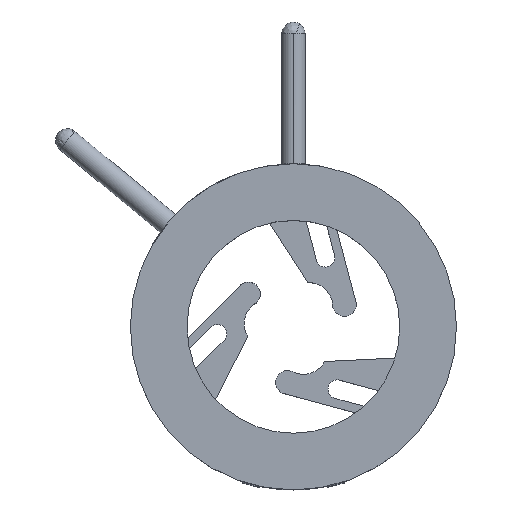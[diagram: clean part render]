
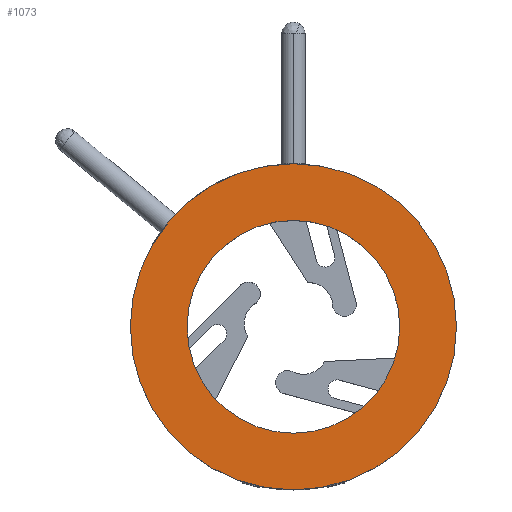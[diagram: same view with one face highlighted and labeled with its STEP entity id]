
A CAD part, top view. The second image highlights one B-rep face of the part: STEP entity #1073.
In plain terms, the highlighted planar face has unit normal (0, 0, 1).
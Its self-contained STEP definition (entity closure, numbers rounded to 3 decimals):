
#108 = VERTEX_POINT ( 'NONE', #3427 ) ;
#110 = EDGE_CURVE ( 'NONE', #151, #108, #3409, .T. ) ;
#151 = VERTEX_POINT ( 'NONE', #3500 ) ;
#1049 = EDGE_LOOP ( 'NONE', ( #1050, #1051 ) ) ;
#1050 = ORIENTED_EDGE ( 'NONE', *, *, #1072, .F. ) ;
#1051 = ORIENTED_EDGE ( 'NONE', *, *, #2105, .F. ) ;
#1052 = EDGE_LOOP ( 'NONE', ( #1053, #1054 ) ) ;
#1053 = ORIENTED_EDGE ( 'NONE', *, *, #110, .T. ) ;
#1054 = ORIENTED_EDGE ( 'NONE', *, *, #3059, .T. ) ;
#1072 = EDGE_CURVE ( 'NONE', #2115, #2160, #5488, .T. ) ;
#1073 = ADVANCED_FACE ( 'NONE', ( #5484, #5483 ), #5482, .F. ) ;
#2105 = EDGE_CURVE ( 'NONE', #2160, #2115, #7454, .T. ) ;
#2115 = VERTEX_POINT ( 'NONE', #7497 ) ;
#2160 = VERTEX_POINT ( 'NONE', #7597 ) ;
#3059 = EDGE_CURVE ( 'NONE', #108, #151, #9647, .T. ) ;
#3405 = DIRECTION ( 'NONE',  ( 1., 0., 0. ) ) ;
#3406 = DIRECTION ( 'NONE',  ( 0., 0., 1. ) ) ;
#3407 = CARTESIAN_POINT ( 'NONE',  ( 0., 0., 11. ) ) ;
#3408 = AXIS2_PLACEMENT_3D ( 'NONE', #3407, #3406, #3405 ) ;
#3409 = CIRCLE ( 'NONE', #3408, 34.5 ) ;
#3427 = CARTESIAN_POINT ( 'NONE',  ( -34.5, 0., 11. ) ) ;
#3500 = CARTESIAN_POINT ( 'NONE',  ( 34.5, 0., 11. ) ) ;
#5478 = DIRECTION ( 'NONE',  ( -1., 0., 0. ) ) ;
#5479 = DIRECTION ( 'NONE',  ( 0., 0., -1. ) ) ;
#5480 = CARTESIAN_POINT ( 'NONE',  ( 0., 0., 11. ) ) ;
#5481 = AXIS2_PLACEMENT_3D ( 'NONE', #5480, #5479, #5478 ) ;
#5482 = PLANE ( 'NONE',  #5481 ) ;
#5483 = FACE_OUTER_BOUND ( 'NONE', #1052, .T. ) ;
#5484 = FACE_BOUND ( 'NONE', #1049, .T. ) ;
#5485 = DIRECTION ( 'NONE',  ( 1., 0., 0. ) ) ;
#5486 = DIRECTION ( 'NONE',  ( 0., 0., 1. ) ) ;
#5487 = AXIS2_PLACEMENT_3D ( 'NONE', #5492, #5486, #5485 ) ;
#5488 = CIRCLE ( 'NONE', #5487, 22.5 ) ;
#5492 = CARTESIAN_POINT ( 'NONE',  ( 0., 0., 11. ) ) ;
#7450 = DIRECTION ( 'NONE',  ( 1., 0., 0. ) ) ;
#7451 = DIRECTION ( 'NONE',  ( 0., 0., 1. ) ) ;
#7452 = CARTESIAN_POINT ( 'NONE',  ( 0., 0., 11. ) ) ;
#7453 = AXIS2_PLACEMENT_3D ( 'NONE', #7452, #7451, #7450 ) ;
#7454 = CIRCLE ( 'NONE', #7453, 22.5 ) ;
#7497 = CARTESIAN_POINT ( 'NONE',  ( 22.5, 0., 11. ) ) ;
#7597 = CARTESIAN_POINT ( 'NONE',  ( -22.5, 0., 11. ) ) ;
#9643 = DIRECTION ( 'NONE',  ( 1., 0., 0. ) ) ;
#9644 = DIRECTION ( 'NONE',  ( 0., 0., 1. ) ) ;
#9645 = CARTESIAN_POINT ( 'NONE',  ( 0., 0., 11. ) ) ;
#9646 = AXIS2_PLACEMENT_3D ( 'NONE', #9645, #9644, #9643 ) ;
#9647 = CIRCLE ( 'NONE', #9646, 34.5 ) ;
